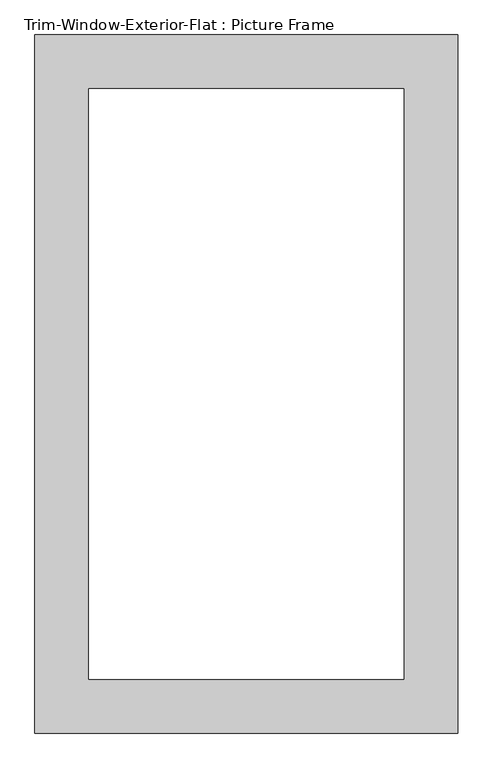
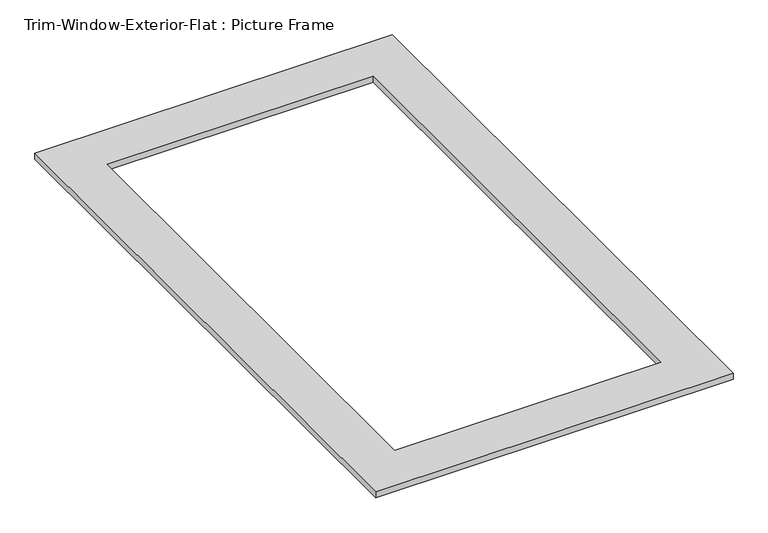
"""IFC4 building model written with IfcOpenShell, lengths in millimetres: proxy geometry, Trim-Window-Exterior-Flat : Picture Frame."""

from ifc_helpers import new_model, si_unit, origin, origin_with_axes, place, context, project, spatial, polyline, outline, extrude, source, transform, mapped, element, save


def trim_window_exterior_flat_picture_frame_9f57b5ba(model_context):
    return source(origin(), model_context, "Body", "SweptSolid", [
        extrude(outline(polyline([(546.1, 139.7), (546.1, -1663.7), (-546.1, -1663.7), (-546.1, 139.7), (546.1, 139.7)]), holes=[polyline([(406.4, 0.0), (-406.4, 0.0), (-406.4, -1524.0), (406.4, -1524.0), (406.4, 0.0)])]), origin_with_axes(), (0.0, 0.0, 1.0), 19.05),
    ])


if __name__ == "__main__":
    model = new_model("IFC4")
    model_context = context("Model", 3, world=origin())
    ifc_project = project(units=[si_unit("LENGTHUNIT", "METRE", prefix="MILLI")], contexts=[model_context])
    site = spatial("IfcSite", under=ifc_project)
    building = spatial("IfcBuilding", under=site)
    placement = place(None, origin())
    trim_window_exterior_flat_picture_frame_shape = trim_window_exterior_flat_picture_frame_9f57b5ba(model_context)
    element("IfcBuildingElementProxy", 1, Name="Trim-Window-Exterior-Flat : Picture Frame", ObjectType="Trim-Window-Exterior-Flat : Picture Frame", at=placement, inside=building, context=model_context, shape_type="MappedRepresentation", body=[
        mapped(trim_window_exterior_flat_picture_frame_shape, transform((0.0, 0.0, 0.0), x_axis=(1.0, 0.0, 0.0), y_axis=(0.0, 1.0, 0.0), z_axis=(0.0, 0.0, 1.0))),
    ])
    save(model, "model.ifc")
